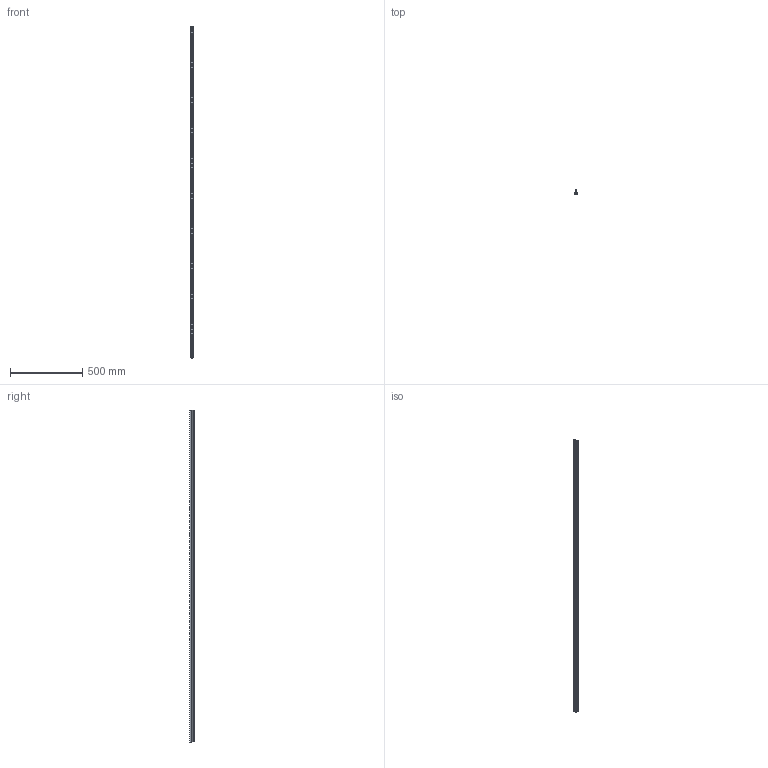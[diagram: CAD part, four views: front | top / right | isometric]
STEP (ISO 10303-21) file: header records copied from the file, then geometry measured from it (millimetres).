
FILE_DESCRIPTION (( 'STEP AP203' ), '1' );
FILE_NAME ('LFS-12-11_-_LFS-12-11 L=2298 - ArtNr 220002 2298.step', '2015-05-04T10:56:41', ( '' ), ( '' ), 'SwSTEP 2.0', 'SolidWorks 2014', '' );
FILE_SCHEMA (( 'CONFIG_CONTROL_DESIGN' ));
Products named in the file (1): LFS-12-11_-_LFS-12-11 L=2298 - ArtNr 220002 2298
Bounding box: 20 x 31 x 2300 mm (x, y, z)
Volume: 695215.7 mm3; surface area: 310761.7 mm2
Topology: 1 solids, 1 shells, 1564 faces, 4184 edges, 2666 vertices
Faces by surface type: cylinder 751, plane 721, cone 46, torus 46
Full cylindrical faces by diameter (mm): 7 x46, 8 x46, 12 x1
Entity records: 50088 total; most frequent: CARTESIAN_POINT 15036, ORIENTED_EDGE 7812, DIRECTION 6333, EDGE_CURVE 3906, VERTEX_POINT 2573, AXIS2_PLACEMENT_3D 2150, VECTOR 2033, LINE 2033
